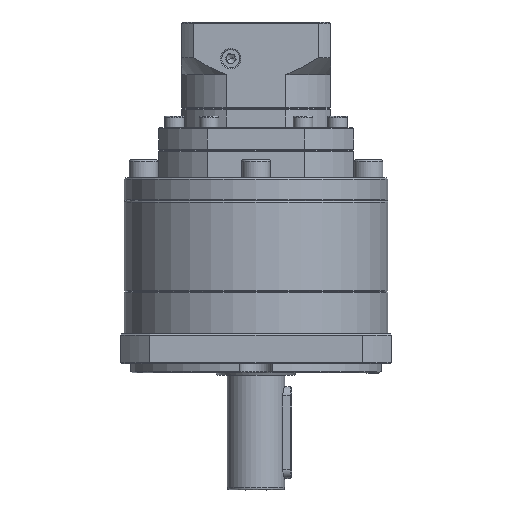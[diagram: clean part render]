
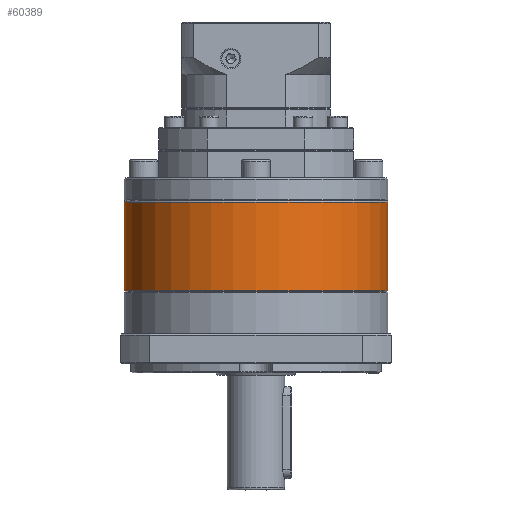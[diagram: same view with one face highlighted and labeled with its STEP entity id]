
A CAD part, front view. The second image highlights one B-rep face of the part: STEP entity #60389.
In plain terms, the highlighted cylindrical face has radius 57.5 mm (diameter 115 mm), a partial arc.
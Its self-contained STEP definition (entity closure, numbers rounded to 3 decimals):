
#439 = AXIS2_PLACEMENT_3D ( 'NONE', #34451, #86607, #55967 ) ;
#3721 = VERTEX_POINT ( 'NONE', #48169 ) ;
#4863 = ORIENTED_EDGE ( 'NONE', *, *, #28899, .T. ) ;
#8827 = LINE ( 'NONE', #85768, #52249 ) ;
#11683 = CARTESIAN_POINT ( 'NONE',  ( 3.82, 70.858, -113.423 ) ) ;
#15507 = CIRCLE ( 'NONE', #115567, 57.5 ) ;
#19662 = VERTEX_POINT ( 'NONE', #49642 ) ;
#28899 = EDGE_CURVE ( 'NONE', #83775, #99899, #75275, .T. ) ;
#30029 = FACE_OUTER_BOUND ( 'NONE', #123339, .T. ) ;
#30355 = EDGE_CURVE ( 'NONE', #99899, #19662, #8827, .T. ) ;
#34451 = CARTESIAN_POINT ( 'NONE',  ( 61.32, 70.858, -113.423 ) ) ;
#38712 = DIRECTION ( 'NONE',  ( 0., 0., 1. ) ) ;
#42676 = DIRECTION ( 'NONE',  ( -1., 0., 0. ) ) ;
#48169 = CARTESIAN_POINT ( 'NONE',  ( 118.82, 70.858, -152.134 ) ) ;
#49389 = EDGE_CURVE ( 'NONE', #19662, #3721, #15507, .T. ) ;
#49481 = CARTESIAN_POINT ( 'NONE',  ( 61.32, 70.858, -152.134 ) ) ;
#49642 = CARTESIAN_POINT ( 'NONE',  ( 3.82, 70.858, -152.134 ) ) ;
#50996 = LINE ( 'NONE', #128243, #75098 ) ;
#51276 = CARTESIAN_POINT ( 'NONE',  ( 61.32, 70.858, -112.923 ) ) ;
#52249 = VECTOR ( 'NONE', #127323, 1000. ) ;
#55967 = DIRECTION ( 'NONE',  ( -1., 0., 0. ) ) ;
#60389 = ADVANCED_FACE ( 'NONE', ( #30029 ), #65336, .T. ) ;
#62492 = DIRECTION ( 'NONE',  ( 0., 0., -1. ) ) ;
#65336 = CYLINDRICAL_SURFACE ( 'NONE', #114614, 57.5 ) ;
#74266 = CARTESIAN_POINT ( 'NONE',  ( 118.82, 70.858, -113.423 ) ) ;
#74787 = EDGE_CURVE ( 'NONE', #83775, #3721, #50996, .T. ) ;
#75098 = VECTOR ( 'NONE', #97951, 1000. ) ;
#75275 = CIRCLE ( 'NONE', #439, 57.5 ) ;
#83775 = VERTEX_POINT ( 'NONE', #74266 ) ;
#85768 = CARTESIAN_POINT ( 'NONE',  ( 3.82, 70.858, -112.923 ) ) ;
#86607 = DIRECTION ( 'NONE',  ( 0., 0., -1. ) ) ;
#90481 = DIRECTION ( 'NONE',  ( -1., 0., 0. ) ) ;
#91601 = ORIENTED_EDGE ( 'NONE', *, *, #49389, .T. ) ;
#94384 = ORIENTED_EDGE ( 'NONE', *, *, #74787, .F. ) ;
#97951 = DIRECTION ( 'NONE',  ( 0., 0., -1. ) ) ;
#99899 = VERTEX_POINT ( 'NONE', #11683 ) ;
#114614 = AXIS2_PLACEMENT_3D ( 'NONE', #51276, #62492, #42676 ) ;
#115567 = AXIS2_PLACEMENT_3D ( 'NONE', #49481, #38712, #90481 ) ;
#123339 = EDGE_LOOP ( 'NONE', ( #94384, #4863, #129172, #91601 ) ) ;
#127323 = DIRECTION ( 'NONE',  ( 0., 0., -1. ) ) ;
#128243 = CARTESIAN_POINT ( 'NONE',  ( 118.82, 70.858, -112.923 ) ) ;
#129172 = ORIENTED_EDGE ( 'NONE', *, *, #30355, .T. ) ;
